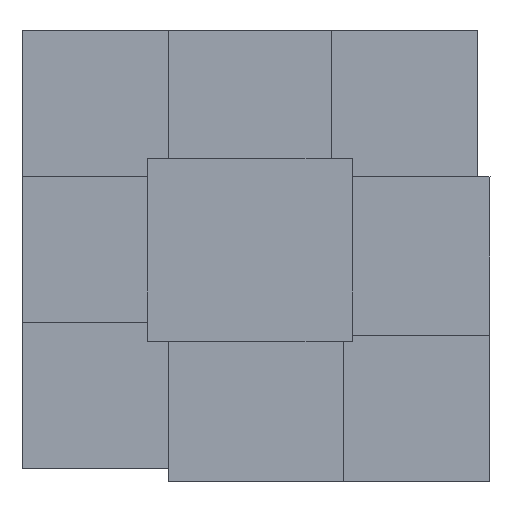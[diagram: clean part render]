
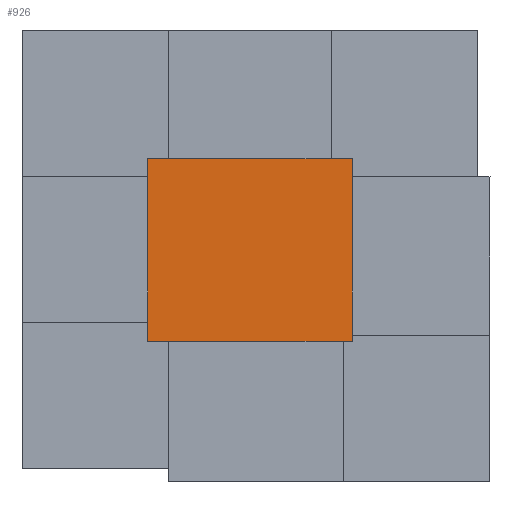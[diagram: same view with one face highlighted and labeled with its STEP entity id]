
A CAD part, left-side view. The second image highlights one B-rep face of the part: STEP entity #926.
In plain terms, the highlighted planar face has unit normal (-1, 0, 0).
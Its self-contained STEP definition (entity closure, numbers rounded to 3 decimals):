
#808=CARTESIAN_POINT('Line Origine',(0.,0.,62.5)) ;
#812=CARTESIAN_POINT('Vertex',(0.,0.,0.)) ;
#814=CARTESIAN_POINT('Vertex',(0.,0.,125.)) ;
#883=CARTESIAN_POINT('Vertex',(0.,140.,0.)) ;
#886=CARTESIAN_POINT('Line Origine',(0.,140.,62.5)) ;
#890=CARTESIAN_POINT('Vertex',(0.,140.,125.)) ;
#905=CARTESIAN_POINT('Axis2P3D Location',(0.,140.,0.)) ;
#910=CARTESIAN_POINT('Line Origine',(0.,70.,0.)) ;
#915=CARTESIAN_POINT('Line Origine',(0.,70.,125.)) ;
#809=DIRECTION('Vector Direction',(0.,0.,1.)) ;
#887=DIRECTION('Vector Direction',(0.,0.,1.)) ;
#906=DIRECTION('Axis2P3D Direction',(-1.,0.,0.)) ;
#907=DIRECTION('Axis2P3D XDirection',(0.,-1.,0.)) ;
#911=DIRECTION('Vector Direction',(0.,-1.,0.)) ;
#916=DIRECTION('Vector Direction',(0.,-1.,0.)) ;
#908=AXIS2_PLACEMENT_3D('Plane Axis2P3D',#905,#906,#907) ;
#921=ORIENTED_EDGE('',*,*,#892,.F.) ;
#922=ORIENTED_EDGE('',*,*,#914,.T.) ;
#923=ORIENTED_EDGE('',*,*,#816,.T.) ;
#924=ORIENTED_EDGE('',*,*,#919,.F.) ;
#810=VECTOR('Line Direction',#809,1.) ;
#888=VECTOR('Line Direction',#887,1.) ;
#912=VECTOR('Line Direction',#911,1.) ;
#917=VECTOR('Line Direction',#916,1.) ;
#926=ADVANCED_FACE('Body.2-molde-superior',(#925),#909,.T.) ;
#816=EDGE_CURVE('',#813,#815,#811,.T.) ;
#892=EDGE_CURVE('',#884,#891,#889,.T.) ;
#914=EDGE_CURVE('',#884,#813,#913,.T.) ;
#919=EDGE_CURVE('',#891,#815,#918,.T.) ;
#920=EDGE_LOOP('',(#921,#922,#923,#924)) ;
#925=FACE_OUTER_BOUND('',#920,.T.) ;
#811=LINE('Line',#808,#810) ;
#889=LINE('Line',#886,#888) ;
#913=LINE('Line',#910,#912) ;
#918=LINE('Line',#915,#917) ;
#909=PLANE('',#908) ;
#813=VERTEX_POINT('',#812) ;
#815=VERTEX_POINT('',#814) ;
#884=VERTEX_POINT('',#883) ;
#891=VERTEX_POINT('',#890) ;
